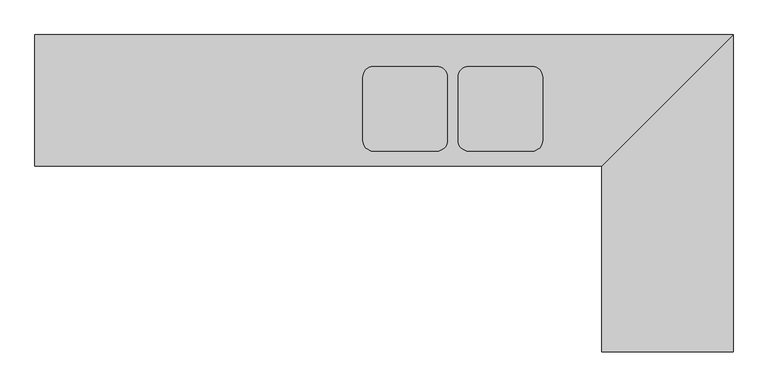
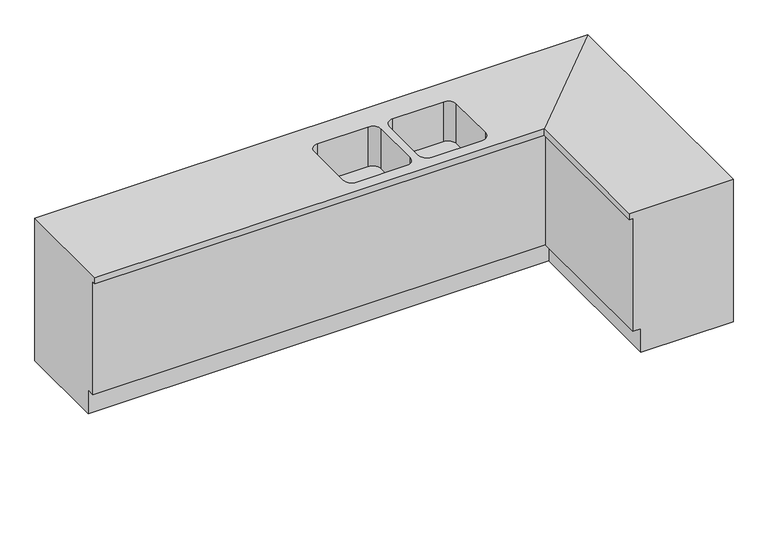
"""IFC4 building model written with IfcOpenShell, lengths in millimetres: furniture geometry, NL_73_aanrechtblok hoek : zonder kookplaat."""

from ifc_helpers import new_model, si_unit, frame, origin, place, context, project, spatial, polyline, circle_curve, source, transform, mapped, element, save
from ifc_brep_helpers import plane_surface, revolved_surface, advanced_brep


def furniture_9805b7c2(model_context):
    return source(origin(), model_context, "Body", "AdvancedBrep", [
        advanced_brep(
        [(-2769.8761694, -550.0, 0.0), (-2769.8761694, -550.0, 150.0), (-2769.8761694, -600.0, 150.0), (-2769.8761694, -600.0, 860.0), (-2769.8761694, -620.0, 860.0), (-2769.8761694, -620.0, 900.0), (-2769.8761694, 0.0, 900.0), (-2769.8761694, 0.0, 0.0), (-19.8761694, -550.0, 0.0), (-19.8761694, -550.0, 150.0), (-69.8761694, -600.0, 150.0), (-69.8761694, -600.0, 860.0), (-89.8761694, -620.0, 860.0), (-89.8761694, -620.0, 900.0), (530.1238306, 0.0, 900.0), (-1169.8761694, -150.0, 900.0), (-869.8761694, -150.0, 900.0), (-819.8761694, -200.0, 900.0), (-819.8761694, -500.0, 900.0), (-869.8761694, -550.0, 900.0), (-1169.8761694, -550.0, 900.0), (-1219.8761694, -500.0, 900.0), (-1219.8761694, -200.0, 900.0), (-719.8761694, -150.0, 900.0), (-419.8761694, -150.0, 900.0), (-369.8761694, -200.0, 900.0), (-369.8761694, -500.0, 900.0), (-419.8761694, -550.0, 900.0), (-719.8761694, -550.0, 900.0), (-769.8761694, -500.0, 900.0), (-769.8761694, -200.0, 900.0), (530.1238306, 0.0, 0.0), (-19.8761694, -1500.0, 0.0), (530.1238306, -1500.0, 0.0), (530.1238306, -1500.0, 900.0), (-89.8761694, -1500.0, 900.0), (-89.8761694, -1500.0, 860.0), (-69.8761694, -1500.0, 860.0), (-69.8761694, -1500.0, 150.0), (-19.8761694, -1500.0, 150.0), (-869.8761694, -150.0, 650.0), (-1169.8761694, -150.0, 650.0), (-1219.8761694, -200.0, 650.0), (-1219.8761694, -500.0, 650.0), (-1169.8761694, -550.0, 650.0), (-869.8761694, -550.0, 650.0), (-819.8761694, -500.0, 650.0), (-819.8761694, -200.0, 650.0), (-419.8761694, -150.0, 650.0), (-719.8761694, -150.0, 650.0), (-769.8761694, -200.0, 650.0), (-769.8761694, -500.0, 650.0), (-719.8761694, -550.0, 650.0), (-419.8761694, -550.0, 650.0), (-369.8761694, -500.0, 650.0), (-369.8761694, -200.0, 650.0)],
        [
            (0, 1),
            (1, 2),
            (2, 3),
            (3, 4),
            (4, 5),
            (5, 6),
            (6, 7),
            (7, 0),
            (0, 8),
            (8, 9),
            (9, 1),
            (9, 10),
            (10, 2),
            (10, 11),
            (11, 3),
            (11, 12),
            (12, 4),
            (12, 13),
            (13, 5),
            (13, 14),
            (14, 6),
            (15, 16),
            (16, 17, circle_curve(frame((-869.8761694, -200.0, 900.0), z_axis=(0.0, 0.0, -1.0), x_axis=(0.0, -1.0, 0.0)), 50.0)),
            (17, 18),
            (18, 19, circle_curve(frame((-869.8761694, -500.0, 900.0), z_axis=(0.0, 0.0, -1.0), x_axis=(0.0, -1.0, 0.0)), 50.0)),
            (19, 20),
            (20, 21, circle_curve(frame((-1169.8761694, -500.0, 900.0), z_axis=(0.0, 0.0, -1.0), x_axis=(0.0, -1.0, 0.0)), 50.0)),
            (21, 22),
            (22, 15, circle_curve(frame((-1169.8761694, -200.0, 900.0), z_axis=(0.0, 0.0, -1.0), x_axis=(0.0, -1.0, 0.0)), 50.0)),
            (23, 24),
            (24, 25, circle_curve(frame((-419.8761694, -200.0, 900.0), z_axis=(0.0, 0.0, -1.0), x_axis=(0.0, -1.0, 0.0)), 50.0)),
            (25, 26),
            (26, 27, circle_curve(frame((-419.8761694, -500.0, 900.0), z_axis=(0.0, 0.0, -1.0), x_axis=(0.0, -1.0, 0.0)), 50.0)),
            (27, 28),
            (28, 29, circle_curve(frame((-719.8761694, -500.0, 900.0), z_axis=(0.0, 0.0, -1.0), x_axis=(0.0, -1.0, 0.0)), 50.0)),
            (29, 30),
            (30, 23, circle_curve(frame((-719.8761694, -200.0, 900.0), z_axis=(0.0, 0.0, -1.0), x_axis=(0.0, -1.0, 0.0)), 50.0)),
            (14, 31),
            (31, 7),
            (31, 8),
            (32, 33),
            (33, 34),
            (34, 35),
            (35, 36),
            (36, 37),
            (37, 38),
            (38, 39),
            (39, 32),
            (8, 32),
            (39, 9),
            (38, 10),
            (37, 11),
            (36, 12),
            (35, 13),
            (34, 14),
            (33, 31),
            (40, 41),
            (41, 42, circle_curve(frame((-1169.8761694, -200.0, 650.0), z_axis=(0.0, 0.0, 1.0), x_axis=(0.0, -1.0, 0.0)), 50.0)),
            (42, 43),
            (43, 44, circle_curve(frame((-1169.8761694, -500.0, 650.0), z_axis=(0.0, 0.0, 1.0), x_axis=(0.0, -1.0, 0.0)), 50.0)),
            (44, 45),
            (45, 46, circle_curve(frame((-869.8761694, -500.0, 650.0), z_axis=(0.0, 0.0, 1.0), x_axis=(0.0, -1.0, 0.0)), 50.0)),
            (46, 47),
            (47, 40, circle_curve(frame((-869.8761694, -200.0, 650.0), z_axis=(0.0, 0.0, 1.0), x_axis=(0.0, -1.0, 0.0)), 50.0)),
            (40, 16),
            (15, 41),
            (22, 42),
            (21, 43),
            (20, 44),
            (19, 45),
            (18, 46),
            (17, 47),
            (48, 49),
            (49, 50, circle_curve(frame((-719.8761694, -200.0, 650.0), z_axis=(0.0, 0.0, 1.0), x_axis=(0.0, -1.0, 0.0)), 50.0)),
            (50, 51),
            (51, 52, circle_curve(frame((-719.8761694, -500.0, 650.0), z_axis=(0.0, 0.0, 1.0), x_axis=(0.0, -1.0, 0.0)), 50.0)),
            (52, 53),
            (53, 54, circle_curve(frame((-419.8761694, -500.0, 650.0), z_axis=(0.0, 0.0, 1.0), x_axis=(0.0, -1.0, 0.0)), 50.0)),
            (54, 55),
            (55, 48, circle_curve(frame((-419.8761694, -200.0, 650.0), z_axis=(0.0, 0.0, 1.0), x_axis=(0.0, -1.0, 0.0)), 50.0)),
            (48, 24),
            (23, 49),
            (30, 50),
            (29, 51),
            (28, 52),
            (27, 53),
            (26, 54),
            (25, 55),
        ],
        [
            plane_surface(frame((-2769.8761694, 0.0, -1092.8860874), z_axis=(-1.0, 0.0, 0.0), x_axis=(0.0, 1.0, 0.0))),
            plane_surface(frame((-2769.8761694, -550.0, 0.0), z_axis=(0.0, -1.0, 0.0), x_axis=(1.0, 0.0, 0.0))),
            plane_surface(frame((-2769.8761694, -550.0, 150.0), z_axis=(0.0, 0.0, -1.0), x_axis=(1.0, 0.0, 0.0))),
            plane_surface(frame((-2769.8761694, -600.0, 150.0), z_axis=(0.0, -1.0, 0.0), x_axis=(1.0, 0.0, 0.0))),
            plane_surface(frame((-2769.8761694, -600.0, 860.0), z_axis=(0.0, 0.0, -1.0), x_axis=(1.0, 0.0, 0.0))),
            plane_surface(frame((-2769.8761694, -620.0, 860.0), z_axis=(0.0, -1.0, 0.0), x_axis=(1.0, 0.0, 0.0))),
            plane_surface(frame((-2769.8761694, -620.0, 900.0), z_axis=(0.0, 0.0, 1.0), x_axis=(1.0, 0.0, 0.0))),
            plane_surface(frame((-2769.8761694, 0.0, 900.0), z_axis=(0.0, 1.0, 0.0), x_axis=(1.0, 0.0, 0.0))),
            plane_surface(frame((-2769.8761694, 0.0, 0.0), z_axis=(0.0, 0.0, -1.0), x_axis=(1.0, 0.0, 0.0))),
            plane_surface(frame((-562.7622567, -1500.0, 0.0), z_axis=(0.0, -1.0, 0.0), x_axis=(0.0, 0.0, -1.0))),
            plane_surface(frame((-19.8761694, -550.0, 0.0), z_axis=(-1.0, 0.0, 0.0), x_axis=(0.0, -1.0, 0.0))),
            plane_surface(frame((-19.8761694, -550.0, 150.0), z_axis=(0.0, 0.0, -1.0), x_axis=(0.0, -1.0, 0.0))),
            plane_surface(frame((-69.8761694, -600.0, 150.0), z_axis=(-1.0, 0.0, 0.0), x_axis=(0.0, -1.0, 0.0))),
            plane_surface(frame((-69.8761694, -600.0, 860.0), z_axis=(0.0, 0.0, -1.0), x_axis=(0.0, -1.0, 0.0))),
            plane_surface(frame((-89.8761694, -620.0, 860.0), z_axis=(-1.0, 0.0, 0.0), x_axis=(0.0, -1.0, 0.0))),
            plane_surface(frame((-89.8761694, -620.0, 900.0), z_axis=(0.0, 0.0, 1.0), x_axis=(0.0, -1.0, 0.0))),
            plane_surface(frame((530.1238306, 0.0, 900.0), z_axis=(1.0, 0.0, 0.0), x_axis=(0.0, -1.0, 0.0))),
            plane_surface(frame((530.1238306, 0.0, 0.0), z_axis=(0.0, 0.0, -1.0), x_axis=(0.0, -1.0, 0.0))),
            plane_surface(frame((-1169.8761694, -150.0, 650.0), z_axis=(0.0, 0.0, 1.0), x_axis=(1.0, 0.0, 0.0))),
            plane_surface(frame((-869.8761694, -150.0, 900.0), z_axis=(0.0, -1.0, 0.0), x_axis=(0.0, 0.0, -1.0))),
            revolved_surface(polyline([(-1169.8761694, -250.0, 900.0), (-1169.8761694, -250.0, 650.0)]), (-1169.8761694, -200.0, 650.0), (0.0, 0.0, 1.0)),
            plane_surface(frame((-1219.8761694, -200.0, 900.0), z_axis=(1.0, 0.0, 0.0), x_axis=(0.0, 0.0, -1.0))),
            revolved_surface(polyline([(-1169.8761694, -550.0, 900.0), (-1169.8761694, -550.0, 650.0)]), (-1169.8761694, -500.0, 650.0), (0.0, 0.0, 1.0)),
            plane_surface(frame((-1169.8761694, -550.0, 900.0), z_axis=(0.0, 1.0, 0.0), x_axis=(0.0, 0.0, -1.0))),
            revolved_surface(polyline([(-869.8761694, -550.0, 900.0), (-869.8761694, -550.0, 650.0)]), (-869.8761694, -500.0, 650.0), (0.0, 0.0, 1.0)),
            plane_surface(frame((-819.8761694, -500.0, 900.0), z_axis=(-1.0, 0.0, 0.0), x_axis=(0.0, 0.0, -1.0))),
            revolved_surface(polyline([(-869.8761694, -250.0, 900.0), (-869.8761694, -250.0, 650.0)]), (-869.8761694, -200.0, 650.0), (0.0, 0.0, 1.0)),
            plane_surface(frame((-719.8761694, -150.0, 650.0), z_axis=(0.0, 0.0, 1.0), x_axis=(1.0, 0.0, 0.0))),
            plane_surface(frame((-419.8761694, -150.0, 900.0), z_axis=(0.0, -1.0, 0.0), x_axis=(0.0, 0.0, -1.0))),
            revolved_surface(polyline([(-719.8761694, -250.0, 900.0), (-719.8761694, -250.0, 650.0)]), (-719.8761694, -200.0, 650.0), (0.0, 0.0, 1.0)),
            plane_surface(frame((-769.8761694, -200.0, 900.0), z_axis=(1.0, 0.0, 0.0), x_axis=(0.0, 0.0, -1.0))),
            revolved_surface(polyline([(-719.8761694, -550.0, 900.0), (-719.8761694, -550.0, 650.0)]), (-719.8761694, -500.0, 650.0), (0.0, 0.0, 1.0)),
            plane_surface(frame((-719.8761694, -550.0, 900.0), z_axis=(0.0, 1.0, 0.0), x_axis=(0.0, 0.0, -1.0))),
            revolved_surface(polyline([(-419.8761694, -550.0, 900.0), (-419.8761694, -550.0, 650.0)]), (-419.8761694, -500.0, 650.0), (0.0, 0.0, 1.0)),
            plane_surface(frame((-369.8761694, -500.0, 900.0), z_axis=(-1.0, 0.0, 0.0), x_axis=(0.0, 0.0, -1.0))),
            revolved_surface(polyline([(-419.8761694, -250.0, 900.0), (-419.8761694, -250.0, 650.0)]), (-419.8761694, -200.0, 650.0), (0.0, 0.0, 1.0)),
        ],
        [
            (0, [[1, 2, 3, 4, 5, 6, 7, 8]]),
            (1, [[-1, 9, 10, 11]]),
            (2, [[-2, -11, 12, 13]]),
            (3, [[-3, -13, 14, 15]]),
            (4, [[-4, -15, 16, 17]]),
            (5, [[-5, -17, 18, 19]]),
            (6, [[-6, -19, 20, 21], [22, 23, 24, 25, 26, 27, 28, 29], [30, 31, 32, 33, 34, 35, 36, 37]]),
            (7, [[-7, -21, 38, 39]]),
            (8, [[-8, -39, 40, -9]]),
            (9, [[41, 42, 43, 44, 45, 46, 47, 48]]),
            (10, [[-10, 49, -48, 50]]),
            (11, [[-12, -50, -47, 51]]),
            (12, [[-14, -51, -46, 52]]),
            (13, [[-16, -52, -45, 53]]),
            (14, [[-18, -53, -44, 54]]),
            (15, [[-20, -54, -43, 55]]),
            (16, [[-38, -55, -42, 56]]),
            (17, [[-40, -56, -41, -49]]),
            (18, [[57, 58, 59, 60, 61, 62, 63, 64]]),
            (19, [[-57, 65, -22, 66]]),
            (20, [[-58, -66, -29, 67]]),
            (21, [[-59, -67, -28, 68]]),
            (22, [[-60, -68, -27, 69]]),
            (23, [[-61, -69, -26, 70]]),
            (24, [[-62, -70, -25, 71]]),
            (25, [[-63, -71, -24, 72]]),
            (26, [[-64, -72, -23, -65]]),
            (27, [[73, 74, 75, 76, 77, 78, 79, 80]]),
            (28, [[-73, 81, -30, 82]]),
            (29, [[-74, -82, -37, 83]]),
            (30, [[-75, -83, -36, 84]]),
            (31, [[-76, -84, -35, 85]]),
            (32, [[-77, -85, -34, 86]]),
            (33, [[-78, -86, -33, 87]]),
            (34, [[-79, -87, -32, 88]]),
            (35, [[-80, -88, -31, -81]]),
        ],
    ),
    ])


if __name__ == "__main__":
    model = new_model("IFC4")
    model_context = context("Model", 3, world=origin())
    ifc_project = project(units=[si_unit("LENGTHUNIT", "METRE", prefix="MILLI")], contexts=[model_context])
    site = spatial("IfcSite", under=ifc_project)
    building = spatial("IfcBuilding", under=site)
    placement = place(None, origin())
    furniture_shape = furniture_9805b7c2(model_context)
    element("IfcFurniture", 1, ObjectType="NL_73_aanrechtblok hoek : zonder kookplaat", at=placement, inside=building, context=model_context, shape_type="MappedRepresentation", body=[
        mapped(furniture_shape, transform((0.0, 0.0, 0.0), x_axis=(1.0, 0.0, 0.0), y_axis=(0.0, 1.0, 0.0), z_axis=(0.0, 0.0, 1.0))),
    ])
    save(model, "model.ifc")
